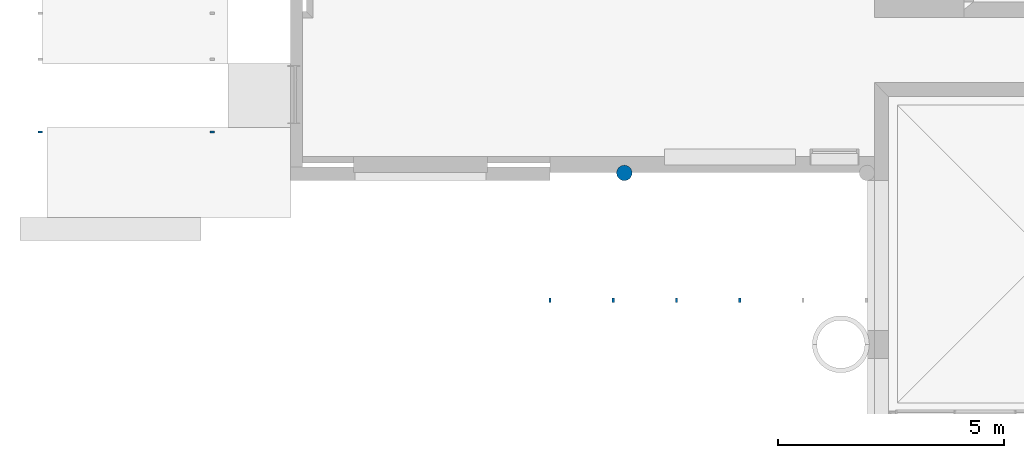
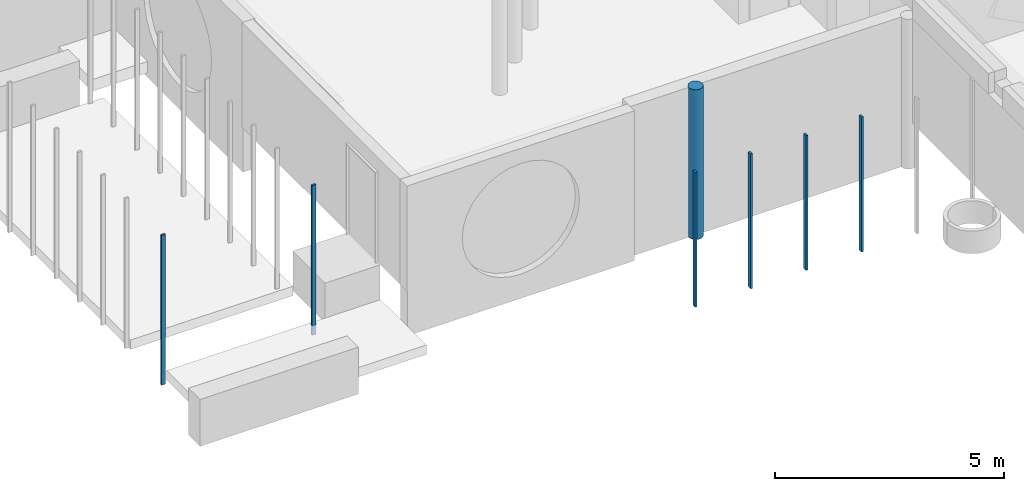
# One storey, part 1 of 64: 7 columns.
"""IFC2X3 building model written with IfcOpenShell, lengths in metres."""

from ifc_helpers import new_model, entity, si_unit, converted_unit, derived_unit, direction, frame, frame_2d, origin, origin_2d_with_axis, place, context, subcontext, project, spatial, rectangle, circle, extrude, source, transform, mapped, material, type_object, type_shapes, element, save


model = new_model("IFC2X3")

# Units and contexts
model_context = context("Model", 3, precision=1e-05, world=origin(), true_north=direction((6.123031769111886e-17, 1.0)))
body_context = subcontext(model_context, "Body", "Model", "MODEL_VIEW")
ifc_project = project(units=[si_unit("LENGTHUNIT", "METRE"), si_unit("AREAUNIT", "SQUARE_METRE"), si_unit("VOLUMEUNIT", "CUBIC_METRE"), converted_unit("PLANEANGLEUNIT", "DEGREE", entity("IfcRatioMeasure", 0.017453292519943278), si_unit("PLANEANGLEUNIT", "RADIAN"), dimensions=[0, 0, 0, 0, 0, 0, 0]), si_unit("MASSUNIT", "GRAM", prefix="KILO"), derived_unit("MASSDENSITYUNIT", [(si_unit("MASSUNIT", "GRAM", prefix="KILO"), 1), (si_unit("LENGTHUNIT", "METRE"), -3)]), derived_unit("MOMENTOFINERTIAUNIT", [(si_unit("LENGTHUNIT", "METRE"), 4)]), si_unit("TIMEUNIT", "SECOND"), si_unit("FREQUENCYUNIT", "HERTZ"), si_unit("THERMODYNAMICTEMPERATUREUNIT", "DEGREE_CELSIUS"), derived_unit("THERMALTRANSMITTANCEUNIT", [(si_unit("MASSUNIT", "GRAM", prefix="KILO"), 1), (si_unit("THERMODYNAMICTEMPERATUREUNIT", "KELVIN"), -1), (si_unit("TIMEUNIT", "SECOND"), -3)]), derived_unit("THERMALCONDUCTANCEUNIT", [(si_unit("MASSUNIT", "GRAM", prefix="KILO"), 1), (si_unit("LENGTHUNIT", "METRE"), 1), (si_unit("THERMODYNAMICTEMPERATUREUNIT", "KELVIN"), -1), (si_unit("TIMEUNIT", "SECOND"), -3)]), derived_unit("VOLUMETRICFLOWRATEUNIT", [(si_unit("LENGTHUNIT", "METRE"), 3), (si_unit("TIMEUNIT", "SECOND"), -1)]), derived_unit("MASSFLOWRATEUNIT", [(si_unit("MASSUNIT", "GRAM", prefix="KILO"), 1), (si_unit("TIMEUNIT", "SECOND"), -1)]), derived_unit("ROTATIONALFREQUENCYUNIT", [(si_unit("TIMEUNIT", "SECOND"), -1)]), si_unit("ELECTRICCURRENTUNIT", "AMPERE"), si_unit("ELECTRICVOLTAGEUNIT", "VOLT"), si_unit("POWERUNIT", "WATT"), si_unit("FORCEUNIT", "NEWTON", prefix="KILO"), si_unit("ILLUMINANCEUNIT", "LUX"), si_unit("LUMINOUSFLUXUNIT", "LUMEN"), si_unit("LUMINOUSINTENSITYUNIT", "CANDELA"), derived_unit("USERDEFINED", [(si_unit("MASSUNIT", "GRAM", prefix="KILO"), -1), (si_unit("LENGTHUNIT", "METRE"), -2), (si_unit("TIMEUNIT", "SECOND"), 3), (si_unit("LUMINOUSFLUXUNIT", "LUMEN"), 1)]), derived_unit("USERDEFINED", [(si_unit("MASSUNIT", "GRAM", prefix="KILO"), 1), (si_unit("LENGTHUNIT", "METRE"), 3), (si_unit("TIMEUNIT", "SECOND"), -3), (si_unit("ELECTRICCURRENTUNIT", "AMPERE"), -2)]), derived_unit("USERDEFINED", [(si_unit("LENGTHUNIT", "METRE"), 2), (si_unit("TIMEUNIT", "SECOND"), -2)]), derived_unit("SOUNDPOWERUNIT", [(si_unit("MASSUNIT", "GRAM", prefix="KILO"), 1), (si_unit("LENGTHUNIT", "METRE"), 2), (si_unit("TIMEUNIT", "SECOND"), -3)]), derived_unit("SOUNDPRESSUREUNIT", [(si_unit("MASSUNIT", "GRAM", prefix="KILO"), 1), (si_unit("LENGTHUNIT", "METRE"), -1), (si_unit("TIMEUNIT", "SECOND"), -2)]), derived_unit("LINEARVELOCITYUNIT", [(si_unit("LENGTHUNIT", "METRE"), 1), (si_unit("TIMEUNIT", "SECOND"), -1)]), si_unit("PRESSUREUNIT", "PASCAL"), derived_unit("USERDEFINED", [(si_unit("LENGTHUNIT", "METRE"), -2), (si_unit("MASSUNIT", "GRAM", prefix="KILO"), 1), (si_unit("TIMEUNIT", "SECOND"), -2)]), derived_unit("LINEARFORCEUNIT", [(si_unit("MASSUNIT", "GRAM", prefix="KILO"), 1), (si_unit("LENGTHUNIT", "METRE"), 1), (si_unit("TIMEUNIT", "SECOND"), -2), (si_unit("LENGTHUNIT", "METRE"), -1)]), derived_unit("PLANARFORCEUNIT", [(si_unit("MASSUNIT", "GRAM", prefix="KILO"), 1), (si_unit("LENGTHUNIT", "METRE"), 1), (si_unit("TIMEUNIT", "SECOND"), -2), (si_unit("LENGTHUNIT", "METRE"), -2)]), derived_unit("SPECIFICHEATCAPACITYUNIT", [(si_unit("LENGTHUNIT", "METRE"), 2), (si_unit("TIMEUNIT", "SECOND"), -2), (si_unit("THERMODYNAMICTEMPERATUREUNIT", "KELVIN"), -1)]), derived_unit("VAPORPERMEABILITYUNIT", [(si_unit("TIMEUNIT", "SECOND"), 1), (si_unit("LENGTHUNIT", "METRE"), -1)]), derived_unit("DYNAMICVISCOSITYUNIT", [(si_unit("MASSUNIT", "GRAM", prefix="KILO"), 1), (si_unit("LENGTHUNIT", "METRE"), -1), (si_unit("TIMEUNIT", "SECOND"), -1)]), derived_unit("THERMALEXPANSIONCOEFFICIENTUNIT", [(si_unit("THERMODYNAMICTEMPERATUREUNIT", "KELVIN"), -1)])], contexts=[model_context])

# Site, building, storey
site_placement = place(None, origin())
site = spatial("IfcSite", under=ifc_project, at=site_placement, Name="Default", CompositionType="ELEMENT")
building_placement = place(site_placement, origin())
building = spatial("IfcBuilding", under=site, at=building_placement, CompositionType="ELEMENT")
storey_placement = place(building_placement, origin())
storey = spatial("IfcBuildingStorey", under=building, at=storey_placement, Name="REZ-DE-CHAUSSÉE", CompositionType="ELEMENT", Elevation=0.0)

# Columns
ifc_material_1 = material(Name="Peinture - Gris foncé")
column_type_1 = type_object("IfcColumnType", Name="Pot-006 56846:Pot-006 56846", PredefinedType="COLUMN", material=ifc_material_1)
shared_shape_1 = source(origin(), body_context, "Body", "SweptSolid", [
    extrude(rectangle(XDim=0.1, YDim=0.05, at=origin_2d_with_axis()), frame((0.0, 0.0, -0.8), z_axis=(0.0, 0.0, 1.0), x_axis=(0.0, -1.0, 0.0)), (0.0, 0.0, 1.0), 3.5999999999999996),
])
type_shapes(column_type_1, [shared_shape_1])
for number, where, name in (
    (1, (95.4757522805, 8.727209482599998, 0.0), "Pot-006"),
    (2, (98.27575228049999, 8.727209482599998, 0.0), "Pot-006"),
    (3, (99.67575228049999, 8.727209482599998, 0.0), "Pot-006"),
    (4, (96.8757522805, 8.727209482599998, 0.0), "Pot-006"),
):
    element("IfcColumn", number, at=place(storey_placement, frame(where)), inside=storey, type_object=column_type_1, material=ifc_material_1, Name=name, ObjectType="Pot-006 56846:Pot-006 56846", context=body_context, shape_type="MappedRepresentation", body=[
        mapped(shared_shape_1, transform((0.0, 0.0, 0.0), scale=1.0)),
    ])
column_type_2 = type_object("IfcColumnType", Name="Pot-006 103892:Pot-006 103892", PredefinedType="COLUMN", material=ifc_material_1)
shared_shape_2 = source(origin(), body_context, "Body", "SweptSolid", [
    extrude(rectangle(XDim=0.05, YDim=0.1, at=origin_2d_with_axis()), frame((0.0, 0.0, -1.2000000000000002), z_axis=(0.0, 0.0, 1.0), x_axis=(0.0, -1.0, 0.0)), (0.0, 0.0, 1.0), 4.0),
])
type_shapes(column_type_2, [shared_shape_2])
for number, where, name in (
    (5, (84.2007522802, 12.4522094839, 0.0), "Pot-007"),
    (6, (88.0007522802, 12.4522094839, 0.0), "Pot-007"),
):
    element("IfcColumn", number, at=place(storey_placement, frame(where)), inside=storey, type_object=column_type_2, material=ifc_material_1, Name=name, ObjectType="Pot-006 103892:Pot-006 103892", context=body_context, shape_type="MappedRepresentation", body=[
        mapped(shared_shape_2, transform((0.0, 0.0, 0.0), scale=1.0)),
    ])
ifc_material_2 = material(Name="Surface-Blanc")
column_type_3 = type_object("IfcColumnType", Name="Pot-001 17357:Pot-001 17357", PredefinedType="COLUMN", material=ifc_material_2)
shared_shape_3 = source(origin(), body_context, "Body", "SweptSolid", [
    extrude(circle(Radius=0.17, at=frame_2d((-1.6919798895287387e-17, -2.746069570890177e-16), x_axis=(1.0, 0.0))), frame((0.0, 0.0, -1.1999999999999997)), (0.0, 0.0, 1.0), 4.0),
])
type_shapes(column_type_3, [shared_shape_3])
column_placement = place(storey_placement, frame((97.1207522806, 11.5482241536, 0.0)))
element("IfcColumn", 7, at=column_placement, inside=storey, type_object=column_type_3, material=ifc_material_2, Name="Pot-002", ObjectType="Pot-001 17357:Pot-001 17357", context=body_context, shape_type="MappedRepresentation", body=[
    mapped(shared_shape_3, transform((0.0, 0.0, 0.0), scale=1.0)),
])

save(model, "model.ifc")
